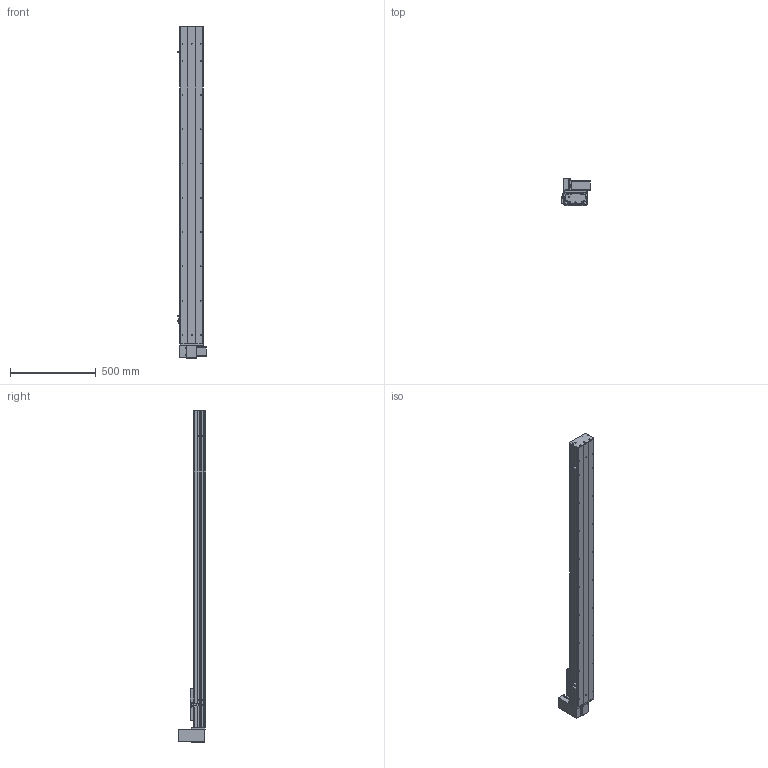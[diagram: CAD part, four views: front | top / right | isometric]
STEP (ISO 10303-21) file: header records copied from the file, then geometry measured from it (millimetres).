
FILE_DESCRIPTION (( 'STEP AP203' ), '1' );
FILE_NAME ('Y135CB-D90-S1550-UR-P400W.STEP', '2020-02-18T04:16:57', ( '微软用户' ), ( '微软中国' ), 'SwSTEP 2.0', 'SolidWorks 2017', '' );
FILE_SCHEMA (( 'CONFIG_CONTROL_DESIGN' ));
Length unit declared in the file: millimetre
Products named in the file (18): Y100-135俋离換覜ん--; 35CB---喘謫眊楊擘啣; Y135C-陔俋离換覜結え-; 0B-埴倛裔啣; 5C--俋欶; 0B-源倛裔啣; C-雄赽釱--; 0B-萇儂楊擘啣; Y10B--々湍喘謫眊--666; san松下电机400不带刹车----; Y10B-耜蚾蟀諉啣----; 5CB --掛极耜裔啣-; 00B-俋欶BM--; C-詩湍揤踡え-陔; Y135CB-耜裔; Y135CB-D90-S1550-UR-P400W; 135CB--詩湍-CE; 135CB---遴掛极.-
Assembly tree (21 placements, depth 2):
  Y135CB-D90-S1550-UR-P400W
    Y135CB-耜裔
    135CB---遴掛极.-
    35CB---喘謫眊楊擘啣
    0B-埴倛裔啣
    0B-源倛裔啣
    0B-萇儂楊擘啣
    san松下电机400不带刹车----
    5CB --掛极耜裔啣-  x2
    C-詩湍揤踡え-陔  x2
    135CB--詩湍-CE
    Y100-135俋离換覜ん--  x3
    Y135C-陔俋离換覜結え-
    5C--俋欶
    C-雄赽釱--
    Y10B--々湍喘謫眊--666
    Y10B-耜蚾蟀諉啣----
    00B-俋欶BM--
Bounding box: 167.5 x 158.7 x 1938 mm (x, y, z)
Volume: 5814696.9 mm3; surface area: 2289633.1 mm2
Topology: 21 solids, 21 shells, 957 faces, 2581 edges, 1710 vertices
Faces by surface type: cylinder 485, plane 456, cone 16
Entity records: 29955 total; most frequent: DIRECTION 4977, CARTESIAN_POINT 4944, ORIENTED_EDGE 4638, EDGE_CURVE 2319, AXIS2_PLACEMENT_3D 1819, VERTEX_POINT 1538, VECTOR 1339, LINE 1339
